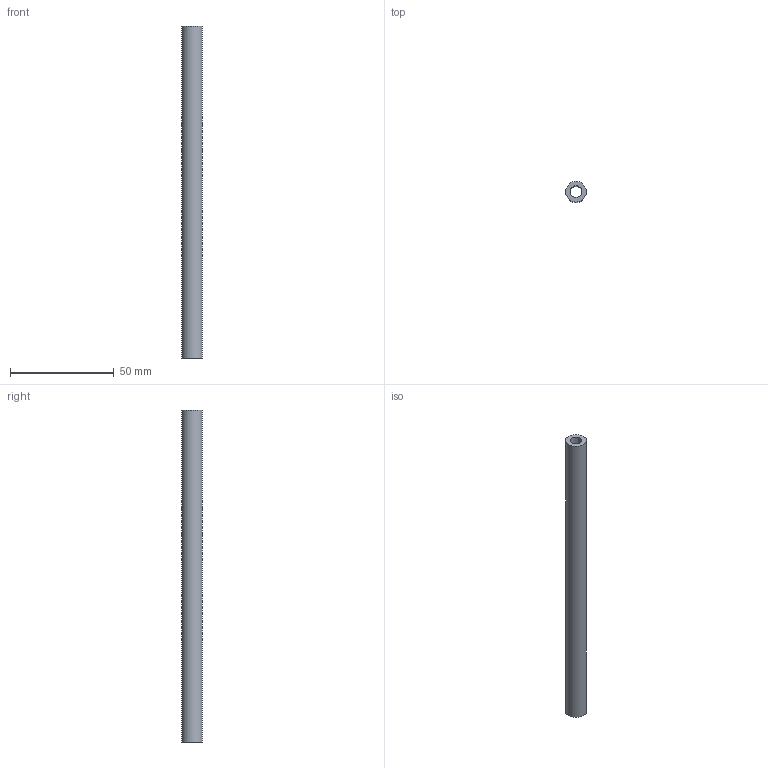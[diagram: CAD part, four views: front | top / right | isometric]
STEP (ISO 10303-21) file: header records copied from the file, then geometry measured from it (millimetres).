
FILE_DESCRIPTION(('Open CASCADE Model'),'2;1');
FILE_NAME('Open CASCADE Shape Model','2026-11-04T08:45:17',('Author'),( 'Open CASCADE'),'Open CASCADE STEP processor 7.8','Open CASCADE 7.8' ,'Unknown');
FILE_SCHEMA(('AUTOMOTIVE_DESIGN { 1 0 10303 214 1 1 1 1 }'));
Length unit declared in the file: millimetre
Products named in the file (1): Open CASCADE STEP translator 7.8 16
Bounding box: 10 x 10 x 160 mm (x, y, z)
Volume: 8625.6 mm3; surface area: 7949.2 mm2
Topology: 1 solids, 1 shells, 4 faces, 6 edges, 4 vertices
Faces by surface type: cylinder 2, plane 2
Full cylindrical faces by diameter (mm): 5.6 x1, 10 x1
Entity records: 186 total; most frequent: DIRECTION 32, CARTESIAN_POINT 27, ORIENTED_EDGE 12, PCURVE 12, DEFINITIONAL_REPRESENTATION 12, LINE 10, VECTOR 10, AXIS2_PLACEMENT_3D 9
